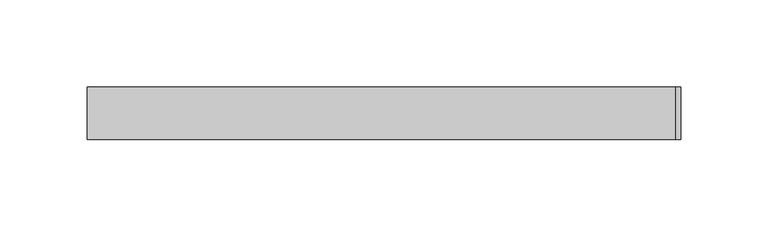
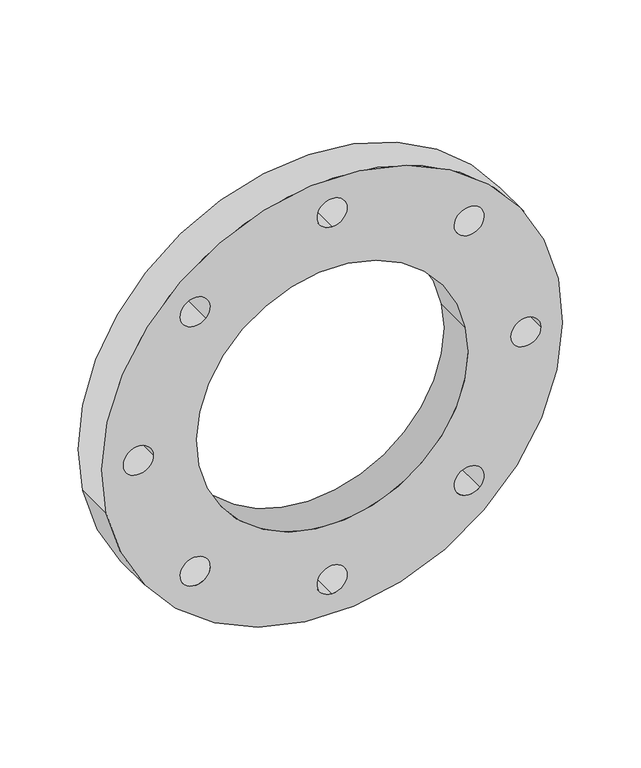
"""IFC4 building model written with IfcOpenShell, lengths in millimetres: pipe fitting geometry, 01051019 : Bridas."""

from ifc_helpers import new_model, si_unit, point, frame, frame_2d, origin, origin_2d, place, context, project, spatial, circle_curve, trimmed, segment, composite_curve, outline, extrude, source, transform, mapped, element, save


def pipe_fitting_8bb477c3(model_context):
    return source(origin(), model_context, "Body", "SweptSolid", [
        extrude(outline(composite_curve([segment(trimmed(circle_curve(origin_2d(), 170.0), [point((-33.1653547, -166.7334977))], [point((33.1653547, 166.7334977))], False, "CARTESIAN"), True, "CONTINUOUS"), segment(trimmed(circle_curve(origin_2d(), 170.0), [point((33.1653547, 166.7334977))], [point((-33.1653547, -166.7334977))], False, "CARTESIAN"), True, "CONTINUOUS")], self_intersect=False), holes=[composite_curve([segment(trimmed(circle_curve(origin_2d(), 100.0), [point((-19.5090322, -98.078528))], [point((19.5090322, 98.078528))], True, "CARTESIAN"), True, "CONTINUOUS"), segment(trimmed(circle_curve(origin_2d(), 100.0), [point((19.5090322, 98.078528))], [point((-19.5090322, -98.078528))], True, "CARTESIAN"), True, "CONTINUOUS")], self_intersect=False), composite_curve([segment(trimmed(circle_curve(frame_2d((0.0, -143.0)), 11.0), [point((0.0, -132.0))], [point((0.0, -154.0))], True, "CARTESIAN"), True, "CONTINUOUS"), segment(trimmed(circle_curve(frame_2d((0.0, -143.0)), 11.0), [point((0.0, -154.0))], [point((0.0, -132.0))], True, "CARTESIAN"), True, "CONTINUOUS")], self_intersect=False), composite_curve([segment(trimmed(circle_curve(frame_2d((101.1162697, -101.1162697)), 11.0), [point((93.3380951, -93.3380951))], [point((108.8944443, -108.8944443))], True, "CARTESIAN"), True, "CONTINUOUS"), segment(trimmed(circle_curve(frame_2d((101.1162697, -101.1162697)), 11.0), [point((108.8944443, -108.8944443))], [point((93.3380951, -93.3380951))], True, "CARTESIAN"), True, "CONTINUOUS")], self_intersect=False), composite_curve([segment(trimmed(circle_curve(frame_2d((-101.1162697, -101.1162697)), 11.0), [point((-93.3380951, -93.3380951))], [point((-108.8944443, -108.8944443))], True, "CARTESIAN"), True, "CONTINUOUS"), segment(trimmed(circle_curve(frame_2d((-101.1162697, -101.1162697)), 11.0), [point((-108.8944443, -108.8944443))], [point((-93.3380951, -93.3380951))], True, "CARTESIAN"), True, "CONTINUOUS")], self_intersect=False), composite_curve([segment(trimmed(circle_curve(frame_2d((-143.0, 0.0)), 11.0), [point((-132.0, 0.0))], [point((-154.0, 0.0))], True, "CARTESIAN"), True, "CONTINUOUS"), segment(trimmed(circle_curve(frame_2d((-143.0, 0.0)), 11.0), [point((-154.0, 0.0))], [point((-132.0, 0.0))], True, "CARTESIAN"), True, "CONTINUOUS")], self_intersect=False), composite_curve([segment(trimmed(circle_curve(frame_2d((-101.1162697, 101.1162697)), 11.0), [point((-93.3380951, 93.3380951))], [point((-108.8944443, 108.8944443))], True, "CARTESIAN"), True, "CONTINUOUS"), segment(trimmed(circle_curve(frame_2d((-101.1162697, 101.1162697)), 11.0), [point((-108.8944443, 108.8944443))], [point((-93.3380951, 93.3380951))], True, "CARTESIAN"), True, "CONTINUOUS")], self_intersect=False), composite_curve([segment(trimmed(circle_curve(frame_2d((0.0, 143.0)), 11.0), [point((0.0, 132.0))], [point((0.0, 154.0))], True, "CARTESIAN"), True, "CONTINUOUS"), segment(trimmed(circle_curve(frame_2d((0.0, 143.0)), 11.0), [point((0.0, 154.0))], [point((0.0, 132.0))], True, "CARTESIAN"), True, "CONTINUOUS")], self_intersect=False), composite_curve([segment(trimmed(circle_curve(frame_2d((101.1162697, 101.1162697)), 11.0), [point((93.3380951, 93.3380951))], [point((108.8944443, 108.8944443))], True, "CARTESIAN"), True, "CONTINUOUS"), segment(trimmed(circle_curve(frame_2d((101.1162697, 101.1162697)), 11.0), [point((108.8944443, 108.8944443))], [point((93.3380951, 93.3380951))], True, "CARTESIAN"), True, "CONTINUOUS")], self_intersect=False), composite_curve([segment(trimmed(circle_curve(frame_2d((143.0, 0.0)), 11.0), [point((132.0, 0.0))], [point((154.0, 0.0))], True, "CARTESIAN"), True, "CONTINUOUS"), segment(trimmed(circle_curve(frame_2d((143.0, 0.0)), 11.0), [point((154.0, 0.0))], [point((132.0, 0.0))], True, "CARTESIAN"), True, "CONTINUOUS")], self_intersect=False)]), frame((0.0, -15.0, 0.0), z_axis=(0.0, 1.0, 0.0), x_axis=(0.0, 0.0, 1.0)), (0.0, 0.0, 1.0), 30.0),
    ])


if __name__ == "__main__":
    model = new_model("IFC4")
    model_context = context("Model", 3, world=origin())
    ifc_project = project(units=[si_unit("LENGTHUNIT", "METRE", prefix="MILLI")], contexts=[model_context])
    site = spatial("IfcSite", under=ifc_project)
    building = spatial("IfcBuilding", under=site)
    placement = place(None, origin())
    pipe_fitting_shape = pipe_fitting_8bb477c3(model_context)
    element("IfcPipeFitting", 1, ObjectType="01051019 : Bridas", at=placement, inside=building, context=model_context, shape_type="MappedRepresentation", body=[
        mapped(pipe_fitting_shape, transform((0.0, 0.0, 0.0), x_axis=(1.0, 0.0, 0.0), y_axis=(0.0, 1.0, 0.0), z_axis=(0.0, 0.0, 1.0))),
    ])
    save(model, "model.ifc")
